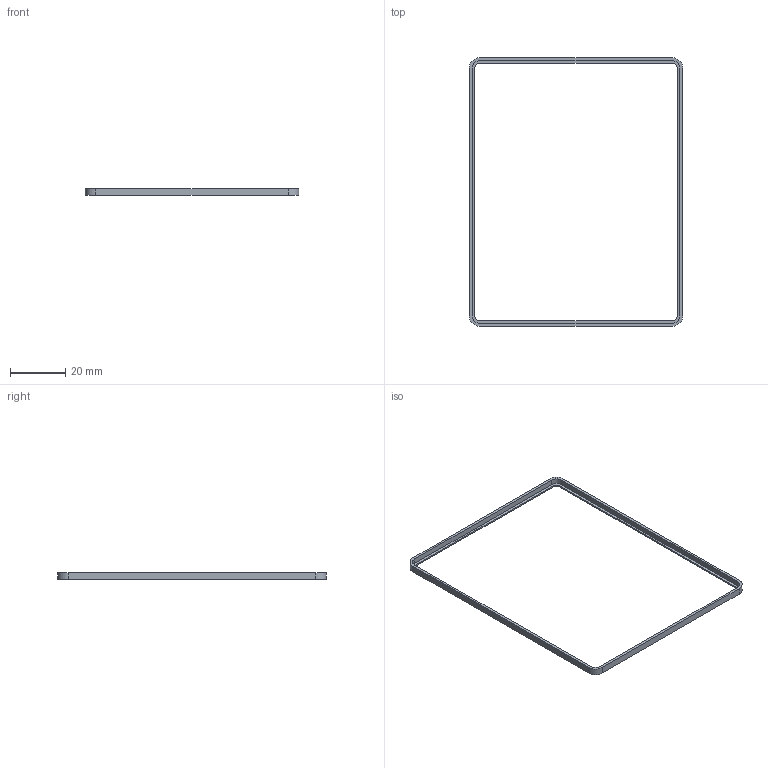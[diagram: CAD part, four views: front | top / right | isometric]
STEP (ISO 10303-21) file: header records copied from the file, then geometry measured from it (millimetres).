
FILE_DESCRIPTION (( 'STEP AP214' ), '1' );
FILE_NAME ('Ðàìêà.STEP', '2026-03-27T10:13:12', ( '' ), ( '' ), 'SwSTEP 2.0', 'SolidWorks 2025', '' );
FILE_SCHEMA (( 'AUTOMOTIVE_DESIGN' ));
Length unit declared in the file: millimetre
Products named in the file (1): Рамка
Bounding box: 77.5 x 97.5 x 2.5 mm (x, y, z)
Volume: 1018.1 mm3; surface area: 3048.1 mm2
Topology: 1 solids, 1 shells, 27 faces, 72 edges, 48 vertices
Faces by surface type: plane 15, cylinder 12
Entity records: 877 total; most frequent: DIRECTION 152, CARTESIAN_POINT 148, ORIENTED_EDGE 144, EDGE_CURVE 72, AXIS2_PLACEMENT_3D 52, LINE 48, VERTEX_POINT 48, VECTOR 48
